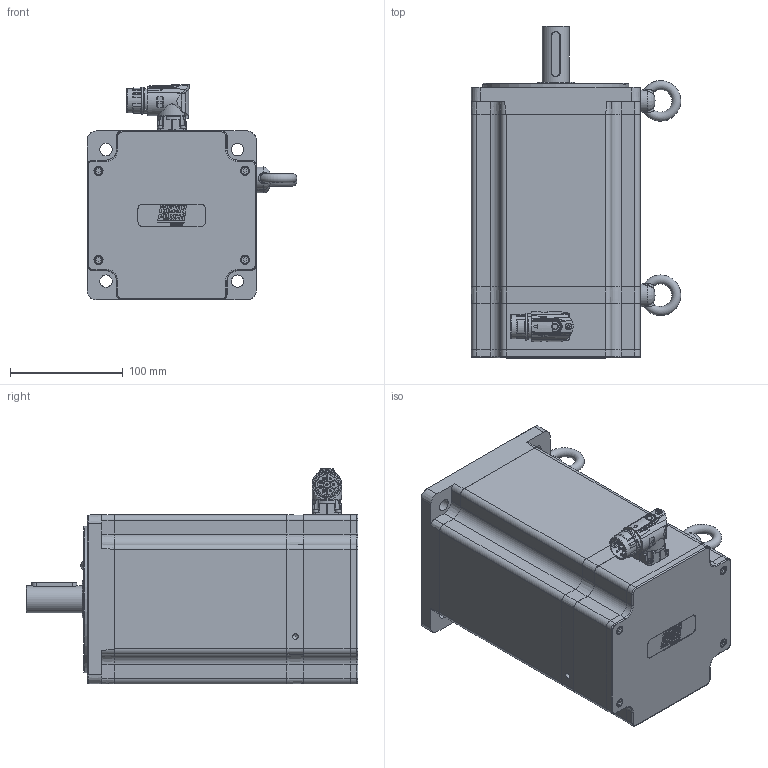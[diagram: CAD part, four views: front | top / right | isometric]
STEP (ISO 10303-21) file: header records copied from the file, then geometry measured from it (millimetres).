
FILE_DESCRIPTION(/* description */ ('Unknown'),/* implementation_level */ '2;1');
FILE_NAME(/* name */ 'TC4-150.6B.XX.X. 3.M1.0.X .C21 Q0C701',/* time_stamp */ '2026-03-06T16:40:50+01:00',/* author */ ('Unknown'),/* organization */ ('Unknown'),/* preprocessor_version */ 'ST-DEVELOPER v19.4',/* originating_system */ 'Solid Edge',/* authorisation */ 'Unknown');
FILE_SCHEMA (('AUTOMOTIVE_DESIGN {1 0 10303 214 3 1 1}'));
Products named in the file (14): Q0C701 6B M1 VUOTO; 003003200179; Distanziale calotta-tappo TC4-150; 005113000600; 005321000040; 005911000252; 003103040237; 003151003170; 007117000456; Coperchio campana TC4-150; 005119002043; 003251040619; 005911000185; 005911000223
Assembly tree (23 placements, depth 2):
  Q0C701 6B M1 VUOTO
    003003200179
    Distanziale calotta-tappo TC4-150
    005113000600
    005321000040  x2
    005911000252  x4
    003103040237
    003151003170
    007117000456
    Coperchio campana TC4-150
    005119002043
    003251040619
    005911000185  x4
    005911000223  x4
Bounding box: 185.97 x 294.5 x 191.5 mm (x, y, z)
Volume: 2009788.1 mm3; surface area: 501939.2 mm2
Topology: 24 solids, 24 shells, 1792 faces, 4439 edges, 2831 vertices
Faces by surface type: plane 821, cylinder 369, bspline 301, cone 165, torus 114, sphere 22
Full cylindrical faces by diameter (mm): 1 x4, 1.4 x4, 2 x4, 2.013 x4, 2.459 x2, 2.5 x4, 2.8 x4, 3 x8, 3.2 x1, 3.242 x8, 4 x4, 4.134 x16, 4.2 x1, 4.5 x9, 4.7 x4, 4.917 x6, 5 x6, 5.5 x9, 5.8 x1, 5.9 x1, 6 x3, 6.647 x2, 6.8 x1, 7 x4, 8 x8, 8.4 x1, 8.5 x4, 9 x4, 10 x5, 11 x4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
Entity records: 66137 total; most frequent: CARTESIAN_POINT 19252, ORIENTED_EDGE 7444, DIRECTION 6625, EDGE_CURVE 3722, VERTEX_POINT 2549, AXIS2_PLACEMENT_3D 2480, FACE_BOUND 2175, EDGE_LOOP 2155
